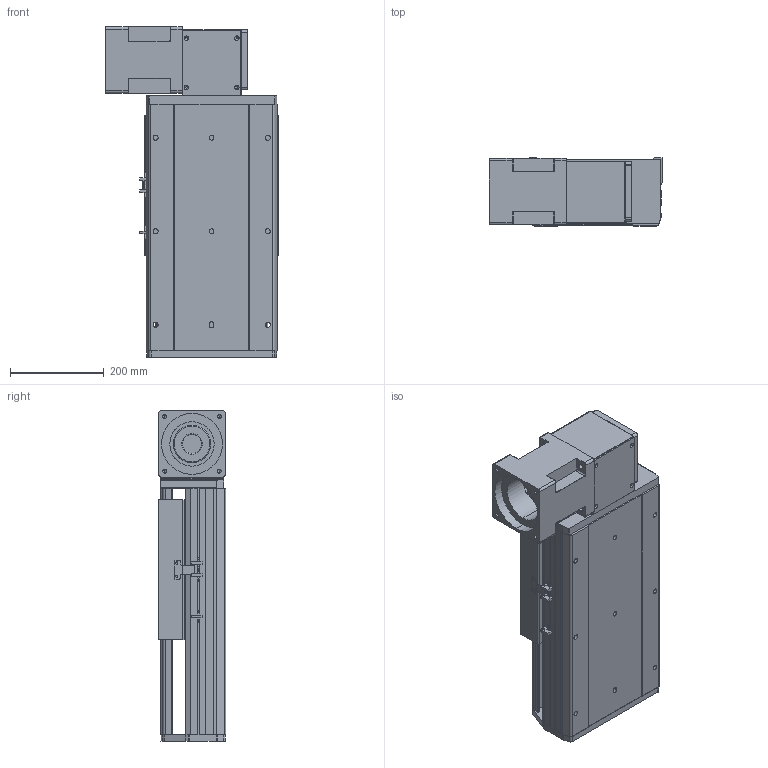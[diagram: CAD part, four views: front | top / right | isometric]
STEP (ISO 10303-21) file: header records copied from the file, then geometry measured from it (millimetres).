
FILE_DESCRIPTION (( 'STEP AP214' ), '1' );
FILE_NAME ('RTB28R-XX-100-BR-M100-XX-C4.STEP', '2025-12-22T01:04:59', ( '' ), ( '' ), 'SwSTEP 2.0', 'SolidWorks 2018', '' );
FILE_SCHEMA (( 'AUTOMOTIVE_DESIGN' ));
Length unit declared in the file: millimetre
Products named in the file (4): RTB28R-XX-100-BR-M100-XX-C4; RTB28S-GY-011^RTB28R-XX-XX-BR-M100-XX-C4; RTB28S-GY-008^RTB28R-XX-XX-BR-M100-XX-C4; RTB28S-GY-004^RTB28R-XX-XX-BR-M100-XX-C4
Assembly tree (3 placements, depth 2):
  RTB28R-XX-100-BR-M100-XX-C4
    RTB28S-GY-011^RTB28R-XX-XX-BR-M100-XX-C4
    RTB28S-GY-004^RTB28R-XX-XX-BR-M100-XX-C4
    RTB28S-GY-008^RTB28R-XX-XX-BR-M100-XX-C4
Bounding box: 370 x 145 x 707 mm (x, y, z)
Volume: 15446334.7 mm3; surface area: 1581187.8 mm2
Topology: 3 solids, 4 shells, 938 faces, 2460 edges, 1576 vertices
Faces by surface type: plane 446, cylinder 321, bspline 87, cone 80, torus 4
Entity records: 39772 total; most frequent: CARTESIAN_POINT 10495, ORIENTED_EDGE 4856, DIRECTION 4668, EDGE_CURVE 2428, VERTEX_POINT 1576, AXIS2_PLACEMENT_3D 1573, VECTOR 1522, LINE 1522
